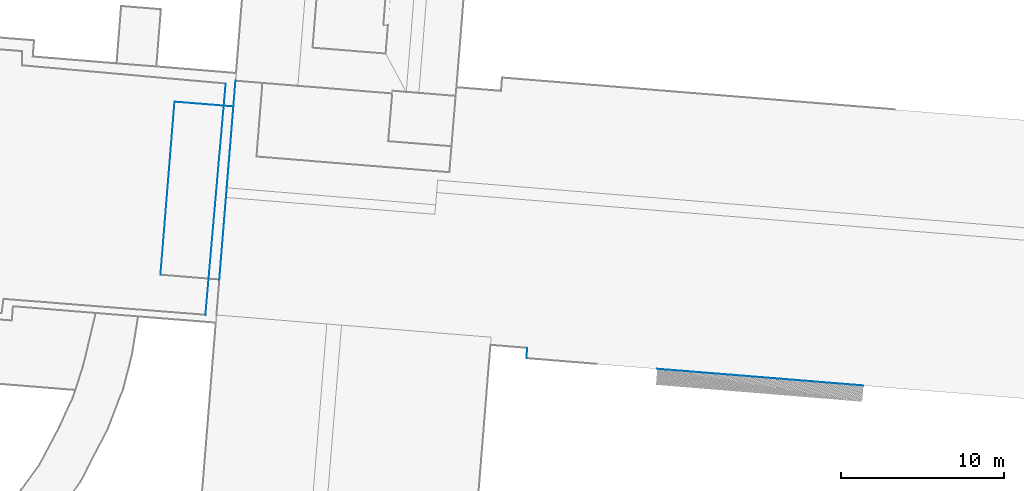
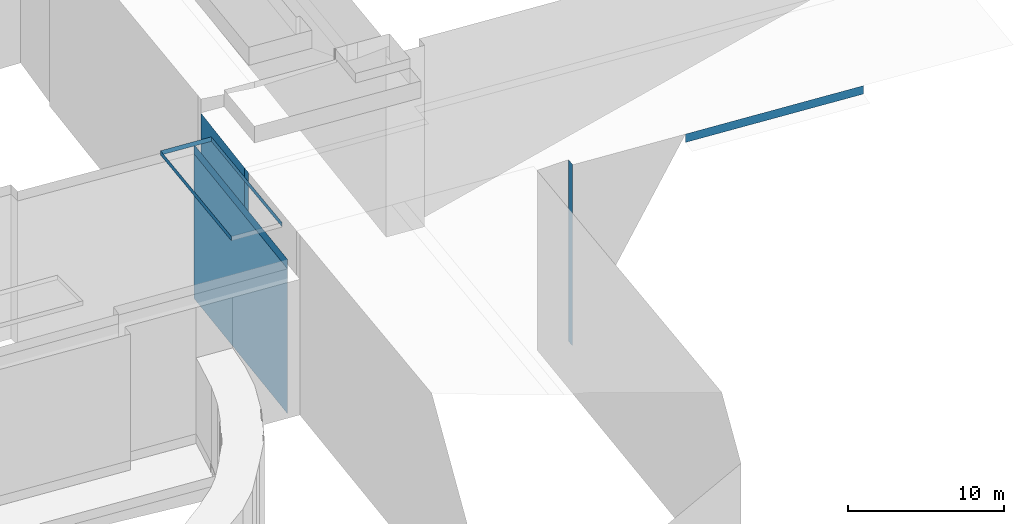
# Not in any storey, part 70 of 136: 13 walls.
"""IFC4 building model written with IfcOpenShell, lengths in metres."""

from ifc_helpers import new_model, entity, si_unit, converted_unit, frame, origin, place, context, subcontext, project, spatial, face_set, surface_model, element, save


model = new_model("IFC4")

# Units and contexts
model_context = context("Model", 3, precision=1e-05, world=origin())
body_context = subcontext(model_context, "Body", "Model", "MODEL_VIEW")
ifc_project = project(units=[converted_unit("PLANEANGLEUNIT", "DEGREE", entity("IfcRatioMeasure", 0.0174532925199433), si_unit("PLANEANGLEUNIT", "RADIAN"), dimensions=[0, 0, 0, 0, 0, 0, 0]), si_unit("AREAUNIT", "SQUARE_METRE"), si_unit("LENGTHUNIT", "METRE")], contexts=[model_context])

# Site, building
site_placement = place(None, origin())
site = spatial("IfcSite", under=ifc_project, at=site_placement, Name="_site")
building_1_placement = place(site_placement, origin())
building_1 = spatial("IfcBuilding", under=site, at=building_1_placement, Name="_building")

# Walls
wall_1_placement = place(building_1_placement, origin())
element("IfcWall", 1, at=wall_1_placement, inside=building_1, Name="Wall", PredefinedType="NOTDEFINED", context=body_context, shape_type="SurfaceModel", body=[
    surface_model("IfcFaceBasedSurfaceModel", [(212.49, 65.49, 49.344), (211.25, 51.34, 49.344), (211.25, 51.34, 37.976), (212.49, 65.49, 38.0)], [face_set([[[0, 1, 2, 3]]])]),
])
for number, where, name in (
    (2, (0.0, 0.0, 0.0), "Wall"),
    (3, (0.0, 0.0, 0.0), "Wall"),
):
    element("IfcWall", number, at=place(building_1_placement, frame(where)), inside=building_1, Name=name, PredefinedType="NOTDEFINED", context=body_context, shape_type="SurfaceModel", body=[
        surface_model("IfcFaceBasedSurfaceModel", [(212.49, 65.49, 49.344), (211.25, 51.34, 49.344), (211.25, 51.34, 50.094), (212.49, 65.49, 50.094)], [face_set([[[0, 1, 2, 3]]])]),
    ])

# Building
building_2_placement = place(site_placement, origin())
building_2 = spatial("IfcBuilding", under=site, at=building_2_placement, Name="_building")

# Walls
wall_2_placement = place(building_2_placement, origin())
element("IfcWall", 4, at=wall_2_placement, inside=building_2, Name="Wall", PredefinedType="NOTDEFINED", context=body_context, shape_type="SurfaceModel", body=[
    surface_model("IfcFaceBasedSurfaceModel", [(212.56, 59.12, 52.09), (213.09, 65.66, 52.25), (213.09, 65.66, 48.6), (212.56, 59.12, 48.6)], [face_set([[[0, 1, 2, 3]]])]),
])
wall_3_placement = place(building_2_placement, origin())
element("IfcWall", 5, at=wall_3_placement, inside=building_2, Name="Wall", PredefinedType="NOTDEFINED", context=body_context, shape_type="SurfaceModel", body=[
    surface_model("IfcFaceBasedSurfaceModel", [(212.511, 58.53, 52.09), (212.56, 59.12, 52.09), (212.56, 59.12, 48.6), (212.511, 58.53, 48.6)], [face_set([[[0, 1, 2, 3]]])]),
])
wall_4_placement = place(building_2_placement, origin())
element("IfcWall", 6, at=wall_4_placement, inside=building_2, Name="Wall", PredefinedType="NOTDEFINED", context=body_context, shape_type="SurfaceModel", body=[
    surface_model("IfcFaceBasedSurfaceModel", [(212.96, 64.09, 51.37), (212.1, 53.5, 51.37), (212.1, 53.5, 51.02), (212.96, 64.09, 51.02)], [face_set([[[0, 1, 2, 3]]])]),
])
wall_5_placement = place(building_2_placement, origin())
element("IfcWall", 7, at=wall_5_placement, inside=building_2, Name="Wall", PredefinedType="NOTDEFINED", context=body_context, shape_type="SurfaceModel", body=[
    surface_model("IfcFaceBasedSurfaceModel", [(208.5, 53.79, 51.37), (209.36, 64.38, 51.37), (209.36, 64.38, 51.02), (208.5, 53.79, 51.02)], [face_set([[[0, 1, 2, 3]]])]),
])
wall_6_placement = place(building_2_placement, origin())
element("IfcWall", 8, at=wall_6_placement, inside=building_2, Name="Wall", PredefinedType="NOTDEFINED", context=body_context, shape_type="SurfaceModel", body=[
    surface_model("IfcFaceBasedSurfaceModel", [(230.89, 48.69, 52.25), (230.94, 49.32, 52.25), (230.94, 49.32, 38.0), (230.89, 48.69, 37.999)], [face_set([[[0, 1, 2, 3]]])]),
])
wall_7_placement = place(building_2_placement, origin())
element("IfcWall", 9, at=wall_7_placement, inside=building_2, Name="Wall", PredefinedType="NOTDEFINED", context=body_context, shape_type="SurfaceModel", body=[
    surface_model("IfcFaceBasedSurfaceModel", [(251.5, 47.021, 52.25), (238.89, 48.04, 52.25), (238.89, 48.04, 51.59), (251.5, 47.021, 51.59)], [face_set([[[0, 1, 2, 3]]])]),
])
wall_8_placement = place(building_2_placement, origin())
element("IfcWall", 10, at=wall_8_placement, inside=building_2, Name="Wall", PredefinedType="NOTDEFINED", context=body_context, shape_type="SurfaceModel", body=[
    surface_model("IfcFaceBasedSurfaceModel", [(212.96, 64.09, 51.37), (212.1, 53.5, 51.37), (212.1, 53.5, 51.02), (212.96, 64.09, 51.02)], [face_set([[[0, 1, 2, 3]]])]),
])
wall_9_placement = place(building_2_placement, origin())
element("IfcWall", 11, at=wall_9_placement, inside=building_2, Name="Wall", PredefinedType="NOTDEFINED", context=body_context, shape_type="SurfaceModel", body=[
    surface_model("IfcFaceBasedSurfaceModel", [(208.5, 53.79, 51.37), (209.36, 64.38, 51.37), (209.36, 64.38, 51.02), (208.5, 53.79, 51.02)], [face_set([[[0, 1, 2, 3]]])]),
])
for number, where, name in (
    (12, (0.0, 0.0, 0.0), "Wall"),
    (13, (0.0, 0.0, 0.0), "Wall"),
):
    element("IfcWall", number, at=place(building_2_placement, frame(where)), inside=building_2, Name=name, PredefinedType="NOTDEFINED", context=body_context, shape_type="SurfaceModel", body=[
        surface_model("IfcFaceBasedSurfaceModel", [(209.36, 64.38, 51.37), (212.96, 64.09, 51.37), (212.96, 64.09, 51.02), (209.36, 64.38, 51.02)], [face_set([[[0, 1, 2, 3]]])]),
    ])

save(model, "model.ifc")
